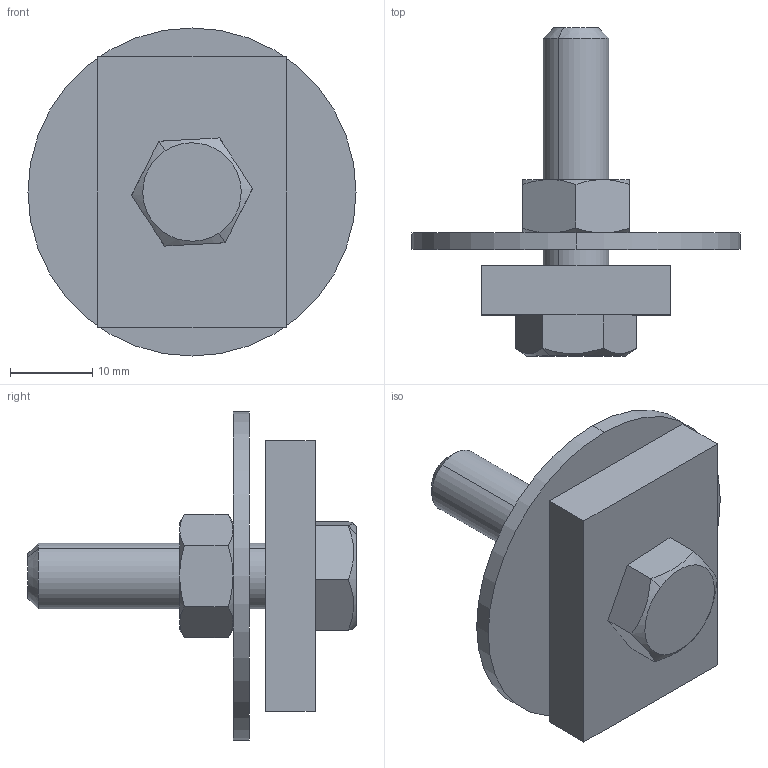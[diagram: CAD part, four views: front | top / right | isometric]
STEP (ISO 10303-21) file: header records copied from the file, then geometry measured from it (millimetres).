
FILE_DESCRIPTION (( 'STEP AP203' ), '1' );
FILE_NAME ('IK 08 MG Ïðèñîåäèíèòåëüíûé êîìïëåêò.STEP', '2013-01-10T04:44:27', ( 'System' ), ( '' ), 'SwSTEP 2.0', 'SolidWorks 2012', '' );
FILE_SCHEMA (( 'CONFIG_CONTROL_DESIGN' ));
Length unit declared in the file: millimetre
Products named in the file (5): IK 08 MG Ïðèñîåäèíèòåëüíûé êîìïëåêò; Ãàéêà Ì8 DIN 934_¬.8; Øàéáà êóçîâíàÿ Ì8õ40; Áîëò îö. Ì8x35 DIN 933; Ãàéêà õîäîâàÿ Ì8
Assembly tree (4 placements, depth 2):
  IK 08 MG Ïðèñîåäèíèòåëüíûé êîìïëåêò
    Ãàéêà õîäîâàÿ Ì8
    Áîëò îö. Ì8x35 DIN 933
    Øàéáà êóçîâíàÿ Ì8õ40
    Ãàéêà Ì8 DIN 934_¬.8
Bounding box: 40 x 40 x 40 mm (x, y, z)
Volume: 9785.3 mm3; surface area: 6912.5 mm2
Topology: 4 solids, 4 shells, 59 faces, 126 edges, 76 vertices
Faces by surface type: plane 25, cone 20, cylinder 12, torus 2
Entity records: 2239 total; most frequent: CARTESIAN_POINT 458, DIRECTION 274, ORIENTED_EDGE 252, EDGE_CURVE 126, AXIS2_PLACEMENT_3D 112, VERTEX_POINT 76, EDGE_LOOP 66, FACE_OUTER_BOUND 59
